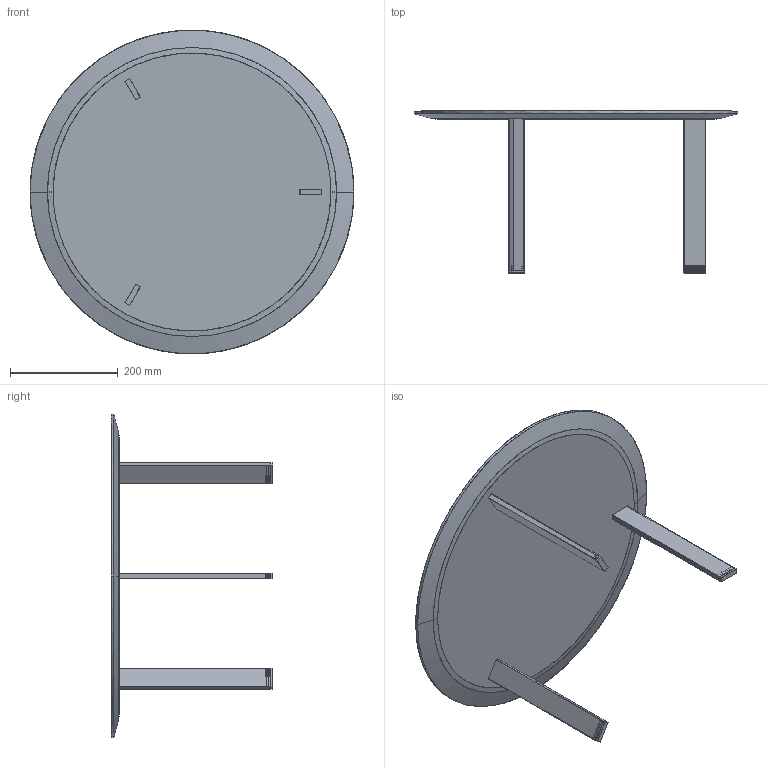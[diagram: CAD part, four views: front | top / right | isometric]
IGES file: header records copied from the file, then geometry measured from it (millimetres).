
Start section: SolidWorks IGES file using NURBS representation for surfaces
Global section: file name: G:\Recover\PRODUCTOS\29-RYUTARO\04-MODELADOS (PLANOS)\3D para WEB\IGS\60d30h.IGS; native system: SolidWorks 2009; preprocessor: SolidWorks 2009; author: RUBEN; date: 110629.130836; units: millimetre
Bounding box: 600 x 300 x 600 mm (x, y, z)
Surface area: 758365.5 mm2 (no closed solid volume)
Topology: 0 solids, 0 shells, 215 faces, 1064 edges, 1040 vertices
Faces by surface type: bspline 215
